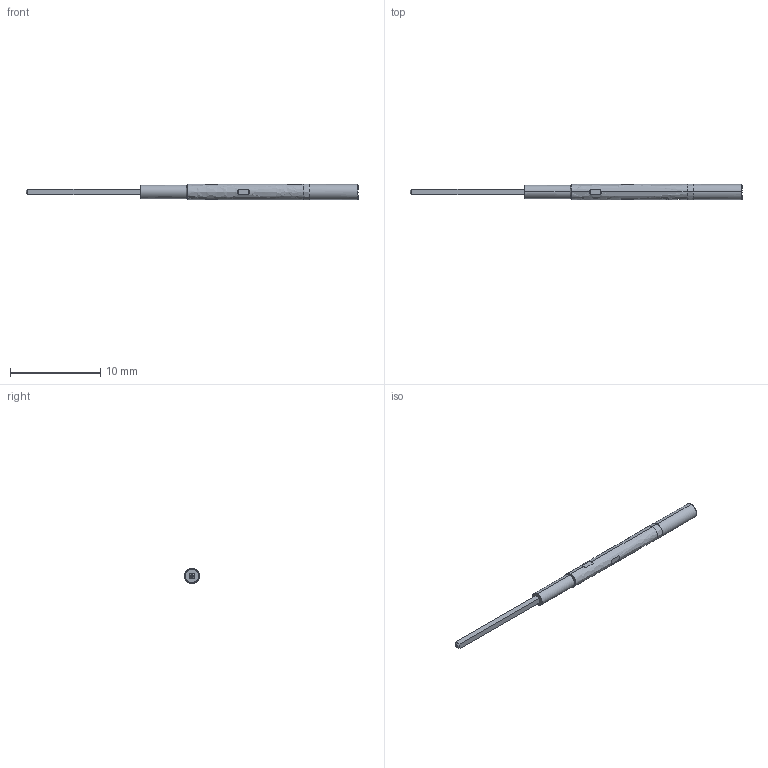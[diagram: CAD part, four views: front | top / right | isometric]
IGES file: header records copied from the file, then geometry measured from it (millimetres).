
Start section: SolidWorks IGES file using analytic representation for surfaces
Global section: file name: \\CODA-VM-SBS\RedirectedFolders\georged\My Documents\CODA CAD FILES\GENERAL PURPOSE TEST PROBES\SHORT REACH TEST PROBES\PA3\RA3W.IGS; native system: SolidWorks 2024; preprocessor: SolidWorks 2024; author: GeorgeD; date: 240710.101930; units: inch
Bounding box: 36.83 x 1.77 x 1.77 mm (x, y, z)
Surface area: 253.1 mm2 (no closed solid volume)
Topology: 0 solids, 0 shells, 54 faces, 378 edges, 378 vertices
Faces by surface type: bspline 54
